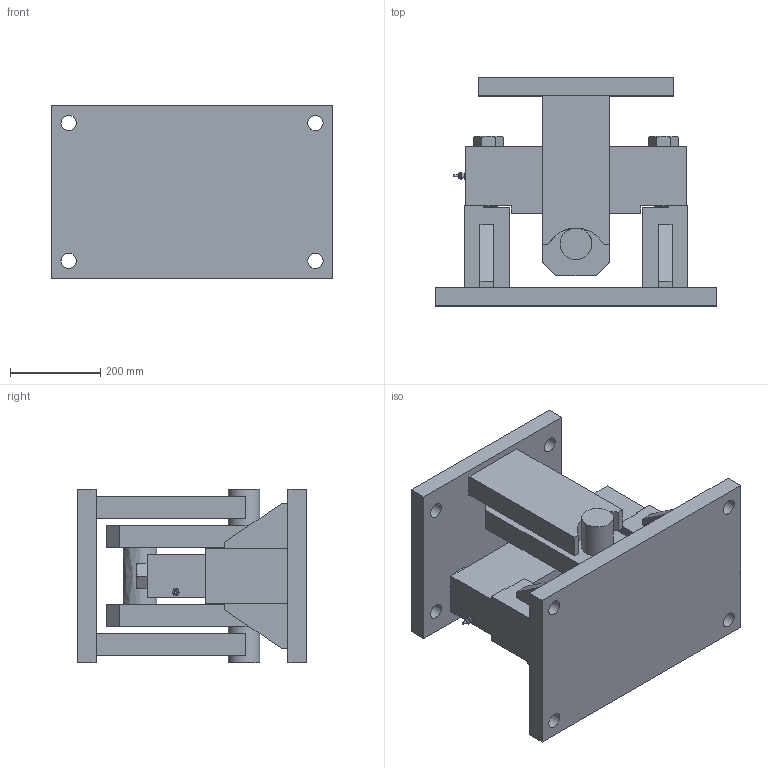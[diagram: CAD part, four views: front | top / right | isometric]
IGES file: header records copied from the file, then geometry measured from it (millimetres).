
Global section: file name: 102BHM1-200klb v16; native system: unknown; preprocessor: unknown; author: unknown; organization: unknown; date: 20200402.113537; units: millimetre
Bounding box: 622.05 x 504.95 x 384.05 mm (x, y, z)
Volume: 39267446.6 mm3; surface area: 2307164.1 mm2
Topology: 8 solids, 8 shells, 290 faces, 731 edges, 485 vertices
Faces by surface type: bspline 290
